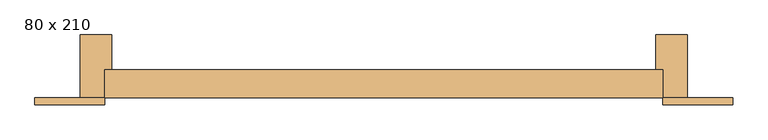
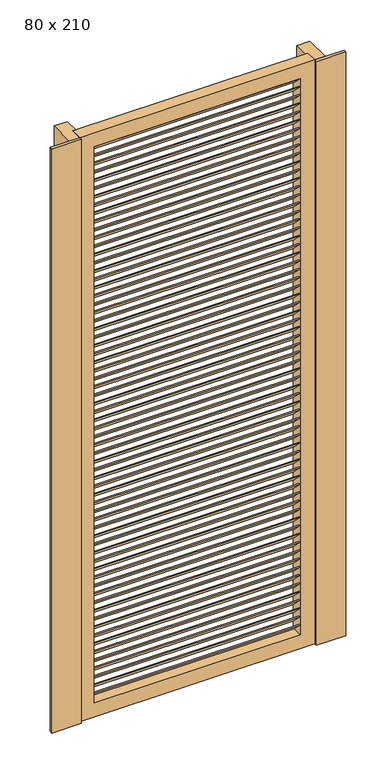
"""IFC4 building model written with IfcOpenShell, lengths in millimetres: door geometry, PORTÃO VENEZIANA DE ABRIR - 1 FOLHA : 80 x 210."""

from ifc_helpers import new_model, si_unit, frame, origin, origin_with_axes, place, context, project, spatial, polyline, outline, extrude, source, transform, mapped, element, save


def door_80_x_210_1a701485(model_context):
    return source(origin(), model_context, "Body", "SweptSolid", [
        extrude(outline(polyline([(-40.0, 1985.2272727), (-75.0, 2020.2272727), (-70.0, 2020.2272727), (-35.0, 1985.2272727), (-40.0, 1985.2272727)])), frame((-295.0, 0.0, 0.0), z_axis=(1.0, 0.0, 0.0), x_axis=(0.0, 1.0, 0.0)), (0.0, 0.0, 1.0), 700.0),
        extrude(outline(polyline([(-40.0, 1955.4545455), (-75.0, 1990.4545455), (-70.0, 1990.4545455), (-35.0, 1955.4545455), (-40.0, 1955.4545455)])), frame((-295.0, 0.0, 0.0), z_axis=(1.0, 0.0, 0.0), x_axis=(0.0, 1.0, 0.0)), (0.0, 0.0, 1.0), 700.0),
        extrude(outline(polyline([(-40.0, 1925.6818182), (-75.0, 1960.6818182), (-70.0, 1960.6818182), (-35.0, 1925.6818182), (-40.0, 1925.6818182)])), frame((-295.0, 0.0, 0.0), z_axis=(1.0, 0.0, 0.0), x_axis=(0.0, 1.0, 0.0)), (0.0, 0.0, 1.0), 700.0),
        extrude(outline(polyline([(-40.0, 1895.9090909), (-75.0, 1930.9090909), (-70.0, 1930.9090909), (-35.0, 1895.9090909), (-40.0, 1895.9090909)])), frame((-295.0, 0.0, 0.0), z_axis=(1.0, 0.0, 0.0), x_axis=(0.0, 1.0, 0.0)), (0.0, 0.0, 1.0), 700.0),
        extrude(outline(polyline([(-40.0, 1866.1363636), (-75.0, 1901.1363636), (-70.0, 1901.1363636), (-35.0, 1866.1363636), (-40.0, 1866.1363636)])), frame((-295.0, 0.0, 0.0), z_axis=(1.0, 0.0, 0.0), x_axis=(0.0, 1.0, 0.0)), (0.0, 0.0, 1.0), 700.0),
        extrude(outline(polyline([(-40.0, 1836.3636364), (-75.0, 1871.3636364), (-70.0, 1871.3636364), (-35.0, 1836.3636364), (-40.0, 1836.3636364)])), frame((-295.0, 0.0, 0.0), z_axis=(1.0, 0.0, 0.0), x_axis=(0.0, 1.0, 0.0)), (0.0, 0.0, 1.0), 700.0),
        extrude(outline(polyline([(-40.0, 1806.5909091), (-75.0, 1841.5909091), (-70.0, 1841.5909091), (-35.0, 1806.5909091), (-40.0, 1806.5909091)])), frame((-295.0, 0.0, 0.0), z_axis=(1.0, 0.0, 0.0), x_axis=(0.0, 1.0, 0.0)), (0.0, 0.0, 1.0), 700.0),
        extrude(outline(polyline([(-40.0, 1776.8181818), (-75.0, 1811.8181818), (-70.0, 1811.8181818), (-35.0, 1776.8181818), (-40.0, 1776.8181818)])), frame((-295.0, 0.0, 0.0), z_axis=(1.0, 0.0, 0.0), x_axis=(0.0, 1.0, 0.0)), (0.0, 0.0, 1.0), 700.0),
        extrude(outline(polyline([(-40.0, 1747.0454545), (-75.0, 1782.0454545), (-70.0, 1782.0454545), (-35.0, 1747.0454545), (-40.0, 1747.0454545)])), frame((-295.0, 0.0, 0.0), z_axis=(1.0, 0.0, 0.0), x_axis=(0.0, 1.0, 0.0)), (0.0, 0.0, 1.0), 700.0),
        extrude(outline(polyline([(-40.0, 1717.2727273), (-75.0, 1752.2727273), (-70.0, 1752.2727273), (-35.0, 1717.2727273), (-40.0, 1717.2727273)])), frame((-295.0, 0.0, 0.0), z_axis=(1.0, 0.0, 0.0), x_axis=(0.0, 1.0, 0.0)), (0.0, 0.0, 1.0), 700.0),
        extrude(outline(polyline([(-40.0, 1687.5), (-75.0, 1722.5), (-70.0, 1722.5), (-35.0, 1687.5), (-40.0, 1687.5)])), frame((-295.0, 0.0, 0.0), z_axis=(1.0, 0.0, 0.0), x_axis=(0.0, 1.0, 0.0)), (0.0, 0.0, 1.0), 700.0),
        extrude(outline(polyline([(-40.0, 1657.7272727), (-75.0, 1692.7272727), (-70.0, 1692.7272727), (-35.0, 1657.7272727), (-40.0, 1657.7272727)])), frame((-295.0, 0.0, 0.0), z_axis=(1.0, 0.0, 0.0), x_axis=(0.0, 1.0, 0.0)), (0.0, 0.0, 1.0), 700.0),
        extrude(outline(polyline([(-40.0, 1627.9545455), (-75.0, 1662.9545455), (-70.0, 1662.9545455), (-35.0, 1627.9545455), (-40.0, 1627.9545455)])), frame((-295.0, 0.0, 0.0), z_axis=(1.0, 0.0, 0.0), x_axis=(0.0, 1.0, 0.0)), (0.0, 0.0, 1.0), 700.0),
        extrude(outline(polyline([(-40.0, 1598.1818182), (-75.0, 1633.1818182), (-70.0, 1633.1818182), (-35.0, 1598.1818182), (-40.0, 1598.1818182)])), frame((-295.0, 0.0, 0.0), z_axis=(1.0, 0.0, 0.0), x_axis=(0.0, 1.0, 0.0)), (0.0, 0.0, 1.0), 700.0),
        extrude(outline(polyline([(-40.0, 1568.4090909), (-75.0, 1603.4090909), (-70.0, 1603.4090909), (-35.0, 1568.4090909), (-40.0, 1568.4090909)])), frame((-295.0, 0.0, 0.0), z_axis=(1.0, 0.0, 0.0), x_axis=(0.0, 1.0, 0.0)), (0.0, 0.0, 1.0), 700.0),
        extrude(outline(polyline([(-40.0, 1538.6363636), (-75.0, 1573.6363636), (-70.0, 1573.6363636), (-35.0, 1538.6363636), (-40.0, 1538.6363636)])), frame((-295.0, 0.0, 0.0), z_axis=(1.0, 0.0, 0.0), x_axis=(0.0, 1.0, 0.0)), (0.0, 0.0, 1.0), 700.0),
        extrude(outline(polyline([(-40.0, 1508.8636364), (-75.0, 1543.8636364), (-70.0, 1543.8636364), (-35.0, 1508.8636364), (-40.0, 1508.8636364)])), frame((-295.0, 0.0, 0.0), z_axis=(1.0, 0.0, 0.0), x_axis=(0.0, 1.0, 0.0)), (0.0, 0.0, 1.0), 700.0),
        extrude(outline(polyline([(-40.0, 1479.0909091), (-75.0, 1514.0909091), (-70.0, 1514.0909091), (-35.0, 1479.0909091), (-40.0, 1479.0909091)])), frame((-295.0, 0.0, 0.0), z_axis=(1.0, 0.0, 0.0), x_axis=(0.0, 1.0, 0.0)), (0.0, 0.0, 1.0), 700.0),
        extrude(outline(polyline([(-40.0, 1449.3181818), (-75.0, 1484.3181818), (-70.0, 1484.3181818), (-35.0, 1449.3181818), (-40.0, 1449.3181818)])), frame((-295.0, 0.0, 0.0), z_axis=(1.0, 0.0, 0.0), x_axis=(0.0, 1.0, 0.0)), (0.0, 0.0, 1.0), 700.0),
        extrude(outline(polyline([(-40.0, 1419.5454545), (-75.0, 1454.5454545), (-70.0, 1454.5454545), (-35.0, 1419.5454545), (-40.0, 1419.5454545)])), frame((-295.0, 0.0, 0.0), z_axis=(1.0, 0.0, 0.0), x_axis=(0.0, 1.0, 0.0)), (0.0, 0.0, 1.0), 700.0),
        extrude(outline(polyline([(-40.0, 1389.7727273), (-75.0, 1424.7727273), (-70.0, 1424.7727273), (-35.0, 1389.7727273), (-40.0, 1389.7727273)])), frame((-295.0, 0.0, 0.0), z_axis=(1.0, 0.0, 0.0), x_axis=(0.0, 1.0, 0.0)), (0.0, 0.0, 1.0), 700.0),
        extrude(outline(polyline([(-40.0, 1360.0), (-75.0, 1395.0), (-70.0, 1395.0), (-35.0, 1360.0), (-40.0, 1360.0)])), frame((-295.0, 0.0, 0.0), z_axis=(1.0, 0.0, 0.0), x_axis=(0.0, 1.0, 0.0)), (0.0, 0.0, 1.0), 700.0),
        extrude(outline(polyline([(-40.0, 1330.2272727), (-75.0, 1365.2272727), (-70.0, 1365.2272727), (-35.0, 1330.2272727), (-40.0, 1330.2272727)])), frame((-295.0, 0.0, 0.0), z_axis=(1.0, 0.0, 0.0), x_axis=(0.0, 1.0, 0.0)), (0.0, 0.0, 1.0), 700.0),
        extrude(outline(polyline([(-40.0, 1300.4545455), (-75.0, 1335.4545455), (-70.0, 1335.4545455), (-35.0, 1300.4545455), (-40.0, 1300.4545455)])), frame((-295.0, 0.0, 0.0), z_axis=(1.0, 0.0, 0.0), x_axis=(0.0, 1.0, 0.0)), (0.0, 0.0, 1.0), 700.0),
        extrude(outline(polyline([(-40.0, 1270.6818182), (-75.0, 1305.6818182), (-70.0, 1305.6818182), (-35.0, 1270.6818182), (-40.0, 1270.6818182)])), frame((-295.0, 0.0, 0.0), z_axis=(1.0, 0.0, 0.0), x_axis=(0.0, 1.0, 0.0)), (0.0, 0.0, 1.0), 700.0),
        extrude(outline(polyline([(-40.0, 1240.9090909), (-75.0, 1275.9090909), (-70.0, 1275.9090909), (-35.0, 1240.9090909), (-40.0, 1240.9090909)])), frame((-295.0, 0.0, 0.0), z_axis=(1.0, 0.0, 0.0), x_axis=(0.0, 1.0, 0.0)), (0.0, 0.0, 1.0), 700.0),
        extrude(outline(polyline([(-40.0, 1211.1363636), (-75.0, 1246.1363636), (-70.0, 1246.1363636), (-35.0, 1211.1363636), (-40.0, 1211.1363636)])), frame((-295.0, 0.0, 0.0), z_axis=(1.0, 0.0, 0.0), x_axis=(0.0, 1.0, 0.0)), (0.0, 0.0, 1.0), 700.0),
        extrude(outline(polyline([(-40.0, 1181.3636364), (-75.0, 1216.3636364), (-70.0, 1216.3636364), (-35.0, 1181.3636364), (-40.0, 1181.3636364)])), frame((-295.0, 0.0, 0.0), z_axis=(1.0, 0.0, 0.0), x_axis=(0.0, 1.0, 0.0)), (0.0, 0.0, 1.0), 700.0),
        extrude(outline(polyline([(-40.0, 1151.5909091), (-75.0, 1186.5909091), (-70.0, 1186.5909091), (-35.0, 1151.5909091), (-40.0, 1151.5909091)])), frame((-295.0, 0.0, 0.0), z_axis=(1.0, 0.0, 0.0), x_axis=(0.0, 1.0, 0.0)), (0.0, 0.0, 1.0), 700.0),
        extrude(outline(polyline([(-40.0, 1121.8181818), (-75.0, 1156.8181818), (-70.0, 1156.8181818), (-35.0, 1121.8181818), (-40.0, 1121.8181818)])), frame((-295.0, 0.0, 0.0), z_axis=(1.0, 0.0, 0.0), x_axis=(0.0, 1.0, 0.0)), (0.0, 0.0, 1.0), 700.0),
        extrude(outline(polyline([(-40.0, 1092.0454545), (-75.0, 1127.0454545), (-70.0, 1127.0454545), (-35.0, 1092.0454545), (-40.0, 1092.0454545)])), frame((-295.0, 0.0, 0.0), z_axis=(1.0, 0.0, 0.0), x_axis=(0.0, 1.0, 0.0)), (0.0, 0.0, 1.0), 700.0),
        extrude(outline(polyline([(-40.0, 1062.2727273), (-75.0, 1097.2727273), (-70.0, 1097.2727273), (-35.0, 1062.2727273), (-40.0, 1062.2727273)])), frame((-295.0, 0.0, 0.0), z_axis=(1.0, 0.0, 0.0), x_axis=(0.0, 1.0, 0.0)), (0.0, 0.0, 1.0), 700.0),
        extrude(outline(polyline([(-40.0, 1032.5), (-75.0, 1067.5), (-70.0, 1067.5), (-35.0, 1032.5), (-40.0, 1032.5)])), frame((-295.0, 0.0, 0.0), z_axis=(1.0, 0.0, 0.0), x_axis=(0.0, 1.0, 0.0)), (0.0, 0.0, 1.0), 700.0),
        extrude(outline(polyline([(-40.0, 1002.7272727), (-75.0, 1037.7272727), (-70.0, 1037.7272727), (-35.0, 1002.7272727), (-40.0, 1002.7272727)])), frame((-295.0, 0.0, 0.0), z_axis=(1.0, 0.0, 0.0), x_axis=(0.0, 1.0, 0.0)), (0.0, 0.0, 1.0), 700.0),
        extrude(outline(polyline([(-40.0, 972.9545455), (-75.0, 1007.9545455), (-70.0, 1007.9545455), (-35.0, 972.9545455), (-40.0, 972.9545455)])), frame((-295.0, 0.0, 0.0), z_axis=(1.0, 0.0, 0.0), x_axis=(0.0, 1.0, 0.0)), (0.0, 0.0, 1.0), 700.0),
        extrude(outline(polyline([(-40.0, 943.1818182), (-75.0, 978.1818182), (-70.0, 978.1818182), (-35.0, 943.1818182), (-40.0, 943.1818182)])), frame((-295.0, 0.0, 0.0), z_axis=(1.0, 0.0, 0.0), x_axis=(0.0, 1.0, 0.0)), (0.0, 0.0, 1.0), 700.0),
        extrude(outline(polyline([(-40.0, 913.4090909), (-75.0, 948.4090909), (-70.0, 948.4090909), (-35.0, 913.4090909), (-40.0, 913.4090909)])), frame((-295.0, 0.0, 0.0), z_axis=(1.0, 0.0, 0.0), x_axis=(0.0, 1.0, 0.0)), (0.0, 0.0, 1.0), 700.0),
        extrude(outline(polyline([(-40.0, 883.6363636), (-75.0, 918.6363636), (-70.0, 918.6363636), (-35.0, 883.6363636), (-40.0, 883.6363636)])), frame((-295.0, 0.0, 0.0), z_axis=(1.0, 0.0, 0.0), x_axis=(0.0, 1.0, 0.0)), (0.0, 0.0, 1.0), 700.0),
        extrude(outline(polyline([(-40.0, 853.8636364), (-75.0, 888.8636364), (-70.0, 888.8636364), (-35.0, 853.8636364), (-40.0, 853.8636364)])), frame((-295.0, 0.0, 0.0), z_axis=(1.0, 0.0, 0.0), x_axis=(0.0, 1.0, 0.0)), (0.0, 0.0, 1.0), 700.0),
        extrude(outline(polyline([(-40.0, 824.0909091), (-75.0, 859.0909091), (-70.0, 859.0909091), (-35.0, 824.0909091), (-40.0, 824.0909091)])), frame((-295.0, 0.0, 0.0), z_axis=(1.0, 0.0, 0.0), x_axis=(0.0, 1.0, 0.0)), (0.0, 0.0, 1.0), 700.0),
        extrude(outline(polyline([(-40.0, 794.3181818), (-75.0, 829.3181818), (-70.0, 829.3181818), (-35.0, 794.3181818), (-40.0, 794.3181818)])), frame((-295.0, 0.0, 0.0), z_axis=(1.0, 0.0, 0.0), x_axis=(0.0, 1.0, 0.0)), (0.0, 0.0, 1.0), 700.0),
        extrude(outline(polyline([(-40.0, 764.5454545), (-75.0, 799.5454545), (-70.0, 799.5454545), (-35.0, 764.5454545), (-40.0, 764.5454545)])), frame((-295.0, 0.0, 0.0), z_axis=(1.0, 0.0, 0.0), x_axis=(0.0, 1.0, 0.0)), (0.0, 0.0, 1.0), 700.0),
        extrude(outline(polyline([(-40.0, 734.7727273), (-75.0, 769.7727273), (-70.0, 769.7727273), (-35.0, 734.7727273), (-40.0, 734.7727273)])), frame((-295.0, 0.0, 0.0), z_axis=(1.0, 0.0, 0.0), x_axis=(0.0, 1.0, 0.0)), (0.0, 0.0, 1.0), 700.0),
        extrude(outline(polyline([(-40.0, 705.0), (-75.0, 740.0), (-70.0, 740.0), (-35.0, 705.0), (-40.0, 705.0)])), frame((-295.0, 0.0, 0.0), z_axis=(1.0, 0.0, 0.0), x_axis=(0.0, 1.0, 0.0)), (0.0, 0.0, 1.0), 700.0),
        extrude(outline(polyline([(-40.0, 675.2272727), (-75.0, 710.2272727), (-70.0, 710.2272727), (-35.0, 675.2272727), (-40.0, 675.2272727)])), frame((-295.0, 0.0, 0.0), z_axis=(1.0, 0.0, 0.0), x_axis=(0.0, 1.0, 0.0)), (0.0, 0.0, 1.0), 700.0),
        extrude(outline(polyline([(-40.0, 645.4545455), (-75.0, 680.4545455), (-70.0, 680.4545455), (-35.0, 645.4545455), (-40.0, 645.4545455)])), frame((-295.0, 0.0, 0.0), z_axis=(1.0, 0.0, 0.0), x_axis=(0.0, 1.0, 0.0)), (0.0, 0.0, 1.0), 700.0),
        extrude(outline(polyline([(-40.0, 615.6818182), (-75.0, 650.6818182), (-70.0, 650.6818182), (-35.0, 615.6818182), (-40.0, 615.6818182)])), frame((-295.0, 0.0, 0.0), z_axis=(1.0, 0.0, 0.0), x_axis=(0.0, 1.0, 0.0)), (0.0, 0.0, 1.0), 700.0),
        extrude(outline(polyline([(-40.0, 585.9090909), (-75.0, 620.9090909), (-70.0, 620.9090909), (-35.0, 585.9090909), (-40.0, 585.9090909)])), frame((-295.0, 0.0, 0.0), z_axis=(1.0, 0.0, 0.0), x_axis=(0.0, 1.0, 0.0)), (0.0, 0.0, 1.0), 700.0),
        extrude(outline(polyline([(-40.0, 556.1363636), (-75.0, 591.1363636), (-70.0, 591.1363636), (-35.0, 556.1363636), (-40.0, 556.1363636)])), frame((-295.0, 0.0, 0.0), z_axis=(1.0, 0.0, 0.0), x_axis=(0.0, 1.0, 0.0)), (0.0, 0.0, 1.0), 700.0),
        extrude(outline(polyline([(-40.0, 526.3636364), (-75.0, 561.3636364), (-70.0, 561.3636364), (-35.0, 526.3636364), (-40.0, 526.3636364)])), frame((-295.0, 0.0, 0.0), z_axis=(1.0, 0.0, 0.0), x_axis=(0.0, 1.0, 0.0)), (0.0, 0.0, 1.0), 700.0),
        extrude(outline(polyline([(-40.0, 496.5909091), (-75.0, 531.5909091), (-70.0, 531.5909091), (-35.0, 496.5909091), (-40.0, 496.5909091)])), frame((-295.0, 0.0, 0.0), z_axis=(1.0, 0.0, 0.0), x_axis=(0.0, 1.0, 0.0)), (0.0, 0.0, 1.0), 700.0),
        extrude(outline(polyline([(-40.0, 466.8181818), (-75.0, 501.8181818), (-70.0, 501.8181818), (-35.0, 466.8181818), (-40.0, 466.8181818)])), frame((-295.0, 0.0, 0.0), z_axis=(1.0, 0.0, 0.0), x_axis=(0.0, 1.0, 0.0)), (0.0, 0.0, 1.0), 700.0),
        extrude(outline(polyline([(-40.0, 437.0454545), (-75.0, 472.0454545), (-70.0, 472.0454545), (-35.0, 437.0454545), (-40.0, 437.0454545)])), frame((-295.0, 0.0, 0.0), z_axis=(1.0, 0.0, 0.0), x_axis=(0.0, 1.0, 0.0)), (0.0, 0.0, 1.0), 700.0),
        extrude(outline(polyline([(-40.0, 407.2727273), (-75.0, 442.2727273), (-70.0, 442.2727273), (-35.0, 407.2727273), (-40.0, 407.2727273)])), frame((-295.0, 0.0, 0.0), z_axis=(1.0, 0.0, 0.0), x_axis=(0.0, 1.0, 0.0)), (0.0, 0.0, 1.0), 700.0),
        extrude(outline(polyline([(-40.0, 377.5), (-75.0, 412.5), (-70.0, 412.5), (-35.0, 377.5), (-40.0, 377.5)])), frame((-295.0, 0.0, 0.0), z_axis=(1.0, 0.0, 0.0), x_axis=(0.0, 1.0, 0.0)), (0.0, 0.0, 1.0), 700.0),
        extrude(outline(polyline([(-40.0, 347.7272727), (-75.0, 382.7272727), (-70.0, 382.7272727), (-35.0, 347.7272727), (-40.0, 347.7272727)])), frame((-295.0, 0.0, 0.0), z_axis=(1.0, 0.0, 0.0), x_axis=(0.0, 1.0, 0.0)), (0.0, 0.0, 1.0), 700.0),
        extrude(outline(polyline([(-40.0, 317.9545455), (-75.0, 352.9545455), (-70.0, 352.9545455), (-35.0, 317.9545455), (-40.0, 317.9545455)])), frame((-295.0, 0.0, 0.0), z_axis=(1.0, 0.0, 0.0), x_axis=(0.0, 1.0, 0.0)), (0.0, 0.0, 1.0), 700.0),
        extrude(outline(polyline([(-40.0, 288.1818182), (-75.0, 323.1818182), (-70.0, 323.1818182), (-35.0, 288.1818182), (-40.0, 288.1818182)])), frame((-295.0, 0.0, 0.0), z_axis=(1.0, 0.0, 0.0), x_axis=(0.0, 1.0, 0.0)), (0.0, 0.0, 1.0), 700.0),
        extrude(outline(polyline([(-40.0, 258.4090909), (-75.0, 293.4090909), (-70.0, 293.4090909), (-35.0, 258.4090909), (-40.0, 258.4090909)])), frame((-295.0, 0.0, 0.0), z_axis=(1.0, 0.0, 0.0), x_axis=(0.0, 1.0, 0.0)), (0.0, 0.0, 1.0), 700.0),
        extrude(outline(polyline([(-40.0, 228.6363636), (-75.0, 263.6363636), (-70.0, 263.6363636), (-35.0, 228.6363636), (-40.0, 228.6363636)])), frame((-295.0, 0.0, 0.0), z_axis=(1.0, 0.0, 0.0), x_axis=(0.0, 1.0, 0.0)), (0.0, 0.0, 1.0), 700.0),
        extrude(outline(polyline([(-40.0, 198.8636364), (-75.0, 233.8636364), (-70.0, 233.8636364), (-35.0, 198.8636364), (-40.0, 198.8636364)])), frame((-295.0, 0.0, 0.0), z_axis=(1.0, 0.0, 0.0), x_axis=(0.0, 1.0, 0.0)), (0.0, 0.0, 1.0), 700.0),
        extrude(outline(polyline([(-40.0, 169.0909091), (-75.0, 204.0909091), (-70.0, 204.0909091), (-35.0, 169.0909091), (-40.0, 169.0909091)])), frame((-295.0, 0.0, 0.0), z_axis=(1.0, 0.0, 0.0), x_axis=(0.0, 1.0, 0.0)), (0.0, 0.0, 1.0), 700.0),
        extrude(outline(polyline([(-40.0, 139.3181818), (-75.0, 174.3181818), (-70.0, 174.3181818), (-35.0, 139.3181818), (-40.0, 139.3181818)])), frame((-295.0, 0.0, 0.0), z_axis=(1.0, 0.0, 0.0), x_axis=(0.0, 1.0, 0.0)), (0.0, 0.0, 1.0), 700.0),
        extrude(outline(polyline([(-40.0, 109.5454545), (-75.0, 144.5454545), (-70.0, 144.5454545), (-35.0, 109.5454545), (-40.0, 109.5454545)])), frame((-295.0, 0.0, 0.0), z_axis=(1.0, 0.0, 0.0), x_axis=(0.0, 1.0, 0.0)), (0.0, 0.0, 1.0), 700.0),
        extrude(outline(polyline([(-40.0, 79.7727273), (-75.0, 114.7727273), (-70.0, 114.7727273), (-35.0, 79.7727273), (-40.0, 79.7727273)])), frame((-295.0, 0.0, 0.0), z_axis=(1.0, 0.0, 0.0), x_axis=(0.0, 1.0, 0.0)), (0.0, 0.0, 1.0), 700.0),
        extrude(outline(polyline([(-40.0, 2015.0), (-75.0, 2050.0), (-70.0, 2050.0), (-35.0, 2015.0), (-40.0, 2015.0)])), frame((-295.0, 0.0, 0.0), z_axis=(1.0, 0.0, 0.0), x_axis=(0.0, 1.0, 0.0)), (0.0, 0.0, 1.0), 700.0),
        extrude(outline(polyline([(-40.0, 50.0), (-75.0, 85.0), (-70.0, 85.0), (-35.0, 50.0), (-40.0, 50.0)])), frame((-295.0, 0.0, 0.0), z_axis=(1.0, 0.0, 0.0), x_axis=(0.0, 1.0, 0.0)), (0.0, 0.0, 1.0), 700.0),
        extrude(outline(polyline([(2100.0, 455.0), (2100.0, -345.0), (0.0, -345.0), (0.0, 455.0), (2100.0, 455.0)]), holes=[polyline([(2050.0, 405.0), (50.0, 405.0), (50.0, -295.0), (2050.0, -295.0), (2050.0, 405.0)])]), frame((0.0, -75.0, 0.0), z_axis=(0.0, 1.0, 0.0), x_axis=(0.0, 0.0, 1.0)), (0.0, 0.0, 1.0), 40.0),
        extrude(outline(polyline([(555.0, -85.0), (455.0, -85.0), (455.0, -75.0), (555.0, -75.0), (555.0, -85.0)])), origin_with_axes(), (0.0, 0.0, 1.0), 2100.0),
        extrude(outline(polyline([(-345.0, -85.0), (-445.0, -85.0), (-445.0, -75.0), (-345.0, -75.0), (-345.0, -85.0)])), origin_with_axes(), (0.0, 0.0, 1.0), 2100.0),
        extrude(outline(polyline([(-380.0, 15.0), (-335.0, 15.0), (-335.0, -35.0), (-345.0, -35.0), (-345.0, -75.0), (-380.0, -75.0), (-380.0, 15.0)])), origin_with_axes(), (0.0, 0.0, 1.0), 2100.0),
        extrude(outline(polyline([(490.0, -75.0), (455.0, -75.0), (455.0, -35.0), (445.0, -35.0), (445.0, 15.0), (490.0, 15.0), (490.0, -75.0)])), origin_with_axes(), (0.0, 0.0, 1.0), 2100.0),
    ])


if __name__ == "__main__":
    model = new_model("IFC4")
    model_context = context("Model", 3, world=origin())
    ifc_project = project(units=[si_unit("LENGTHUNIT", "METRE", prefix="MILLI")], contexts=[model_context])
    site = spatial("IfcSite", under=ifc_project)
    building = spatial("IfcBuilding", under=site)
    placement = place(None, origin())
    door_80_x_210_shape = door_80_x_210_1a701485(model_context)
    element("IfcDoor", 1, ObjectType="PORTÃO VENEZIANA DE ABRIR - 1 FOLHA : 80 x 210", at=placement, inside=building, context=model_context, shape_type="MappedRepresentation", body=[
        mapped(door_80_x_210_shape, transform((0.0, 0.0, 0.0), x_axis=(1.0, 0.0, 0.0), y_axis=(0.0, 1.0, 0.0), z_axis=(0.0, 0.0, 1.0))),
    ])
    save(model, "model.ifc")
